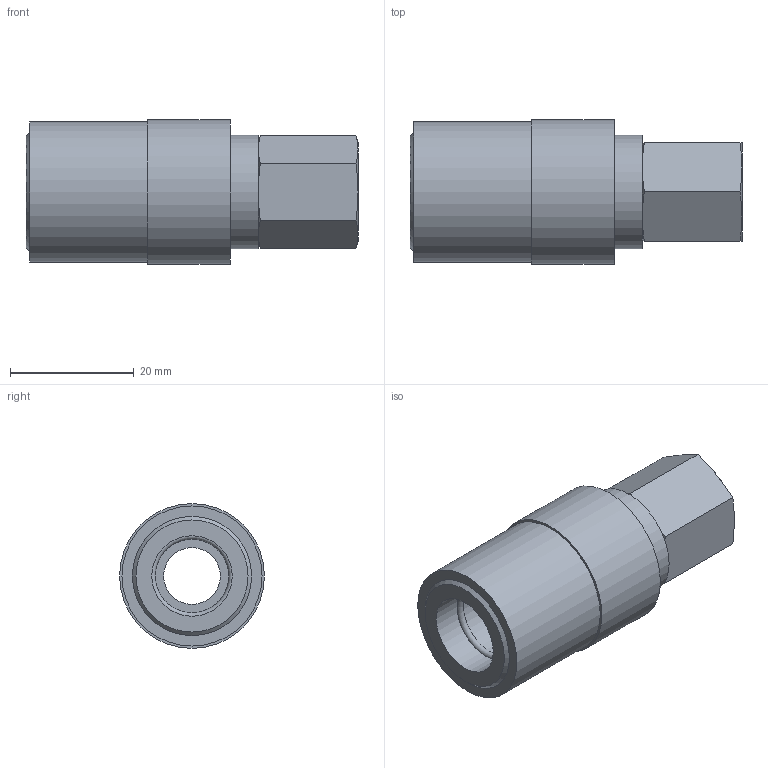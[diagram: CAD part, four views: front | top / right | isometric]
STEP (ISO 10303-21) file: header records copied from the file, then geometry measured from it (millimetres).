
FILE_DESCRIPTION(/* description */ ('STEP AP214'),/* implementation_level */ '2;1');
FILE_NAME(/* name */ 'SK300',/* time_stamp */ '2024-12-19T09:33:56+01:00',/* author */ ('License CC BY-ND 4.0'),/* organization */ ('CADENAS'),/* preprocessor_version */ 'ST-DEVELOPER v19.3',/* originating_system */ 'PARTsolutions',/* authorisation */ ' ');
FILE_SCHEMA (('AUTOMOTIVE_DESIGN {1 0 10303 214 3 1 1}'));
Length unit declared in the file: millimetre
Products named in the file (1): SK300
Bounding box: 53.57 x 23.37 x 23.37 mm (x, y, z)
Volume: 13017 mm3; surface area: 6084.6 mm2
Topology: 1 solids, 1 shells, 36 faces, 70 edges, 41 vertices
Faces by surface type: cone 15, plane 13, cylinder 7, torus 1
Full cylindrical faces by diameter (mm): 9.156 x1, 11.445 x1, 13 x2, 18.334 x1, 22.606 x1, 23.368 x1
Entity records: 910 total; most frequent: CARTESIAN_POINT 209, DIRECTION 138, ORIENTED_EDGE 118, AXIS2_PLACEMENT_3D 66, EDGE_CURVE 59, EDGE_LOOP 54, FACE_BOUND 54, VERTEX_POINT 41
